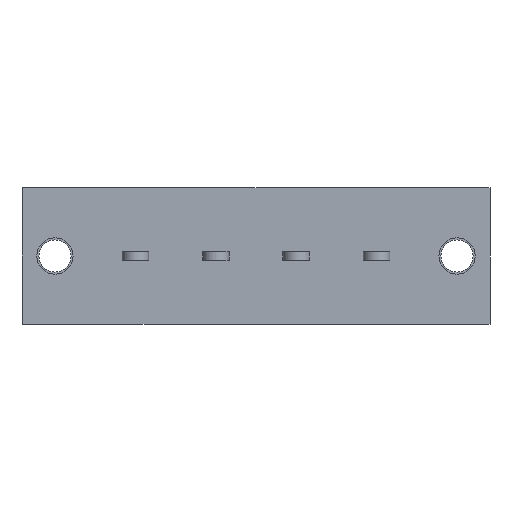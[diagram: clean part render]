
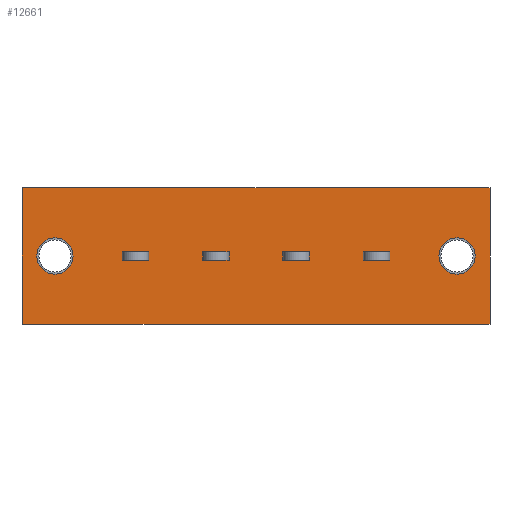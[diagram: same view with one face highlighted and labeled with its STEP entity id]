
A CAD part, front view. The second image highlights one B-rep face of the part: STEP entity #12661.
In plain terms, the highlighted planar face has unit normal (0, -1, 0).
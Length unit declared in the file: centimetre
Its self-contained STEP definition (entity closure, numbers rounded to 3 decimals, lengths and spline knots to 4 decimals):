
#697=CIRCLE('',#13214,0.225);
#754=CIRCLE('',#13511,0.225);
#771=VERTEX_POINT('',#16272);
#772=VERTEX_POINT('',#16273);
#776=VERTEX_POINT('',#16283);
#803=VERTEX_POINT('',#16350);
#855=VERTEX_POINT('',#16562);
#856=VERTEX_POINT('',#16563);
#860=VERTEX_POINT('',#16573);
#887=VERTEX_POINT('',#16640);
#939=VERTEX_POINT('',#16852);
#940=VERTEX_POINT('',#16853);
#944=VERTEX_POINT('',#16863);
#971=VERTEX_POINT('',#16930);
#1100=VERTEX_POINT('',#17366);
#1107=VERTEX_POINT('',#17379);
#1108=VERTEX_POINT('',#17394);
#1640=VERTEX_POINT('',#19493);
#1641=VERTEX_POINT('',#19495);
#1646=VERTEX_POINT('',#19507);
#1653=VERTEX_POINT('',#19532);
#1654=VERTEX_POINT('',#19533);
#1658=VERTEX_POINT('',#19543);
#1668=VERTEX_POINT('',#19574);
#2039=VECTOR('',#13705,1.);
#2043=VECTOR('',#13712,1.);
#2067=VECTOR('',#13763,1.);
#2070=VECTOR('',#13775,1.);
#2111=VECTOR('',#13929,1.);
#2115=VECTOR('',#13936,1.);
#2139=VECTOR('',#13987,1.);
#2142=VECTOR('',#13999,1.);
#2183=VECTOR('',#14153,1.);
#2187=VECTOR('',#14160,1.);
#2211=VECTOR('',#14211,1.);
#2214=VECTOR('',#14223,1.);
#2357=VECTOR('',#14553,1.);
#2972=VECTOR('',#15563,1.);
#2989=VECTOR('',#15590,1.);
#2993=VECTOR('',#15597,1.);
#3003=VECTOR('',#15625,1.);
#3006=VECTOR('',#15637,1.);
#3047=VECTOR('',#15703,1.);
#3048=VECTOR('',#15704,1.);
#3459=LINE('',#16271,#2039);
#3463=LINE('',#16282,#2043);
#3487=LINE('',#16349,#2067);
#3490=LINE('',#16360,#2070);
#3531=LINE('',#16561,#2111);
#3535=LINE('',#16572,#2115);
#3559=LINE('',#16639,#2139);
#3562=LINE('',#16650,#2142);
#3603=LINE('',#16851,#2183);
#3607=LINE('',#16862,#2187);
#3631=LINE('',#16929,#2211);
#3634=LINE('',#16940,#2214);
#3777=LINE('',#17380,#2357);
#4392=LINE('',#19494,#2972);
#4409=LINE('',#19531,#2989);
#4413=LINE('',#19542,#2993);
#4423=LINE('',#19573,#3003);
#4426=LINE('',#19584,#3006);
#4467=LINE('',#19674,#3047);
#4468=LINE('',#19675,#3048);
#4879=EDGE_CURVE('',#771,#772,#3459,.T.);
#4884=EDGE_CURVE('',#776,#771,#3463,.T.);
#4917=EDGE_CURVE('',#772,#803,#3487,.T.);
#4922=EDGE_CURVE('',#803,#776,#3490,.T.);
#5003=EDGE_CURVE('',#855,#856,#3531,.T.);
#5008=EDGE_CURVE('',#860,#855,#3535,.T.);
#5041=EDGE_CURVE('',#856,#887,#3559,.T.);
#5046=EDGE_CURVE('',#887,#860,#3562,.T.);
#5127=EDGE_CURVE('',#939,#940,#3603,.T.);
#5132=EDGE_CURVE('',#944,#939,#3607,.T.);
#5165=EDGE_CURVE('',#940,#971,#3631,.T.);
#5170=EDGE_CURVE('',#971,#944,#3634,.T.);
#5368=EDGE_CURVE('',#1107,#1100,#3777,.T.);
#5375=EDGE_CURVE('',#1108,#1108,#697,.T.);
#6161=EDGE_CURVE('',#1641,#1640,#4392,.T.);
#6167=EDGE_CURVE('',#1646,#1646,#754,.T.);
#6179=EDGE_CURVE('',#1653,#1654,#4409,.T.);
#6184=EDGE_CURVE('',#1658,#1653,#4413,.T.);
#6199=EDGE_CURVE('',#1654,#1668,#4423,.T.);
#6204=EDGE_CURVE('',#1668,#1658,#4426,.T.);
#6249=EDGE_CURVE('',#1640,#1100,#4467,.T.);
#6250=EDGE_CURVE('',#1107,#1641,#4468,.T.);
#9429=ORIENTED_EDGE('',*,*,#4884,.T.);
#9430=ORIENTED_EDGE('',*,*,#4879,.T.);
#9431=ORIENTED_EDGE('',*,*,#4917,.T.);
#9432=ORIENTED_EDGE('',*,*,#4922,.T.);
#9433=ORIENTED_EDGE('',*,*,#5008,.T.);
#9434=ORIENTED_EDGE('',*,*,#5003,.T.);
#9435=ORIENTED_EDGE('',*,*,#5041,.T.);
#9436=ORIENTED_EDGE('',*,*,#5046,.T.);
#9437=ORIENTED_EDGE('',*,*,#5132,.T.);
#9438=ORIENTED_EDGE('',*,*,#5127,.T.);
#9439=ORIENTED_EDGE('',*,*,#5165,.T.);
#9440=ORIENTED_EDGE('',*,*,#5170,.T.);
#9441=ORIENTED_EDGE('',*,*,#5375,.T.);
#9442=ORIENTED_EDGE('',*,*,#6167,.T.);
#9443=ORIENTED_EDGE('',*,*,#6184,.T.);
#9444=ORIENTED_EDGE('',*,*,#6179,.T.);
#9445=ORIENTED_EDGE('',*,*,#6199,.T.);
#9446=ORIENTED_EDGE('',*,*,#6204,.T.);
#9447=ORIENTED_EDGE('',*,*,#6249,.T.);
#9448=ORIENTED_EDGE('',*,*,#5368,.F.);
#9449=ORIENTED_EDGE('',*,*,#6250,.T.);
#9450=ORIENTED_EDGE('',*,*,#6161,.T.);
#11127=EDGE_LOOP('',(#9429,#9430,#9431,#9432));
#11128=EDGE_LOOP('',(#9433,#9434,#9435,#9436));
#11129=EDGE_LOOP('',(#9437,#9438,#9439,#9440));
#11130=EDGE_LOOP('',(#9441));
#11131=EDGE_LOOP('',(#9442));
#11132=EDGE_LOOP('',(#9443,#9444,#9445,#9446));
#11133=EDGE_LOOP('',(#9447,#9448,#9449,#9450));
#11931=FACE_BOUND('',#11127,.T.);
#11932=FACE_BOUND('',#11128,.T.);
#11933=FACE_BOUND('',#11129,.T.);
#11934=FACE_BOUND('',#11130,.T.);
#11935=FACE_BOUND('',#11131,.T.);
#11936=FACE_BOUND('',#11132,.T.);
#11937=FACE_BOUND('',#11133,.T.);
#12661=ADVANCED_FACE('',(#11931,#11932,#11933,#11934,#11935,#11936,#11937),
#21565,.T.);
#13214=AXIS2_PLACEMENT_3D('',#17393,#14567,#14568);
#13511=AXIS2_PLACEMENT_3D('',#19506,#15571,#15572);
#13556=AXIS2_PLACEMENT_3D('',#19673,#15702,$);
#13705=DIRECTION('',(0.,0.,-1.));
#13712=DIRECTION('',(1.,0.,0.));
#13763=DIRECTION('',(-1.,0.,0.));
#13775=DIRECTION('',(0.,0.,1.));
#13929=DIRECTION('',(0.,0.,-1.));
#13936=DIRECTION('',(1.,0.,0.));
#13987=DIRECTION('',(-1.,0.,0.));
#13999=DIRECTION('',(0.,0.,1.));
#14153=DIRECTION('',(0.,0.,-1.));
#14160=DIRECTION('',(1.,0.,0.));
#14211=DIRECTION('',(-1.,0.,0.));
#14223=DIRECTION('',(0.,0.,1.));
#14553=DIRECTION('',(0.,0.,-1.));
#14567=DIRECTION('',(0.,1.,0.));
#14568=DIRECTION('',(0.,0.,0.225));
#15563=DIRECTION('',(0.,0.,-1.));
#15571=DIRECTION('',(0.,1.,0.));
#15572=DIRECTION('',(0.,0.,0.225));
#15590=DIRECTION('',(0.,0.,-1.));
#15597=DIRECTION('',(1.,0.,0.));
#15625=DIRECTION('',(-1.,0.,0.));
#15637=DIRECTION('',(0.,0.,1.));
#15702=DIRECTION('',(0.,-1.,0.));
#15703=DIRECTION('',(1.,0.,0.));
#15704=DIRECTION('',(-1.,0.,0.));
#16271=CARTESIAN_POINT('',(3.755,0.,0.));
#16272=CARTESIAN_POINT('',(3.755,0.,0.05));
#16273=CARTESIAN_POINT('',(3.755,0.,-0.05));
#16282=CARTESIAN_POINT('',(1.795,0.,0.05));
#16283=CARTESIAN_POINT('',(3.425,0.,0.05));
#16349=CARTESIAN_POINT('',(1.795,0.,-0.05));
#16350=CARTESIAN_POINT('',(3.425,0.,-0.05));
#16360=CARTESIAN_POINT('',(3.425,0.,0.));
#16561=CARTESIAN_POINT('',(2.755,0.,0.));
#16562=CARTESIAN_POINT('',(2.755,0.,0.05));
#16563=CARTESIAN_POINT('',(2.755,0.,-0.05));
#16572=CARTESIAN_POINT('',(1.295,0.,0.05));
#16573=CARTESIAN_POINT('',(2.425,0.,0.05));
#16639=CARTESIAN_POINT('',(1.295,0.,-0.05));
#16640=CARTESIAN_POINT('',(2.425,0.,-0.05));
#16650=CARTESIAN_POINT('',(2.425,0.,0.));
#16851=CARTESIAN_POINT('',(1.755,0.,0.));
#16852=CARTESIAN_POINT('',(1.755,0.,0.05));
#16853=CARTESIAN_POINT('',(1.755,0.,-0.05));
#16862=CARTESIAN_POINT('',(0.795,0.,0.05));
#16863=CARTESIAN_POINT('',(1.425,0.,0.05));
#16929=CARTESIAN_POINT('',(0.795,0.,-0.05));
#16930=CARTESIAN_POINT('',(1.425,0.,-0.05));
#16940=CARTESIAN_POINT('',(1.425,0.,0.));
#17366=CARTESIAN_POINT('',(5.,0.,-0.85));
#17379=CARTESIAN_POINT('',(5.,0.,0.85));
#17380=CARTESIAN_POINT('',(5.,0.,0.85));
#17393=CARTESIAN_POINT('',(4.59,0.,0.));
#17394=CARTESIAN_POINT('',(4.59,0.,-0.225));
#19493=CARTESIAN_POINT('',(-0.82,0.,-0.85));
#19494=CARTESIAN_POINT('',(-0.82,0.,0.85));
#19495=CARTESIAN_POINT('',(-0.82,0.,0.85));
#19506=CARTESIAN_POINT('',(-0.41,0.,0.));
#19507=CARTESIAN_POINT('',(-0.41,0.,-0.225));
#19531=CARTESIAN_POINT('',(0.755,0.,0.));
#19532=CARTESIAN_POINT('',(0.755,0.,0.05));
#19533=CARTESIAN_POINT('',(0.755,0.,-0.05));
#19542=CARTESIAN_POINT('',(0.295,0.,0.05));
#19543=CARTESIAN_POINT('',(0.425,0.,0.05));
#19573=CARTESIAN_POINT('',(0.295,0.,-0.05));
#19574=CARTESIAN_POINT('',(0.425,0.,-0.05));
#19584=CARTESIAN_POINT('',(0.425,0.,0.));
#19673=CARTESIAN_POINT('',(0.,0.,0.));
#19674=CARTESIAN_POINT('',(3.,0.,-0.85));
#19675=CARTESIAN_POINT('',(0.,0.,0.85));
#21565=PLANE('',#13556);
